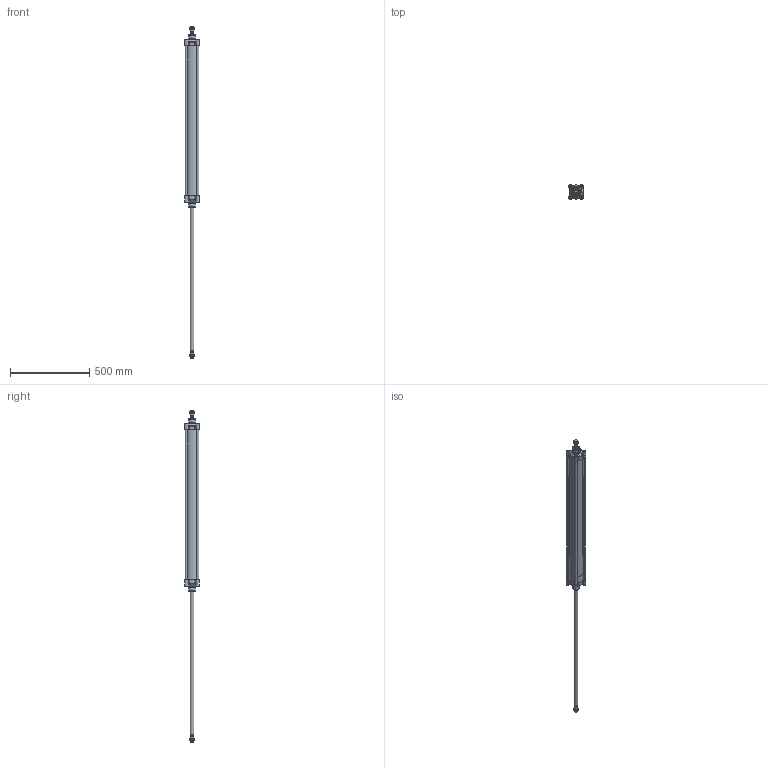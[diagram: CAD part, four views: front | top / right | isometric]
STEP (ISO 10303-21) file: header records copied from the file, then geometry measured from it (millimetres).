
FILE_DESCRIPTION(/* description */ ('Unknown'),/* implementation_level */ '2;1');
FILE_NAME(/* name */ 'HBF 80_900',/* time_stamp */ '2024-08-07T12:43:58+02:00',/* author */ ('Unknown'),/* organization */ ('Unknown'),/* preprocessor_version */ 'ST-DEVELOPER v16.7',/* originating_system */ 'Solid Edge',/* authorisation */ 'Unknown');
FILE_SCHEMA (('AUTOMOTIVE_DESIGN {1 0 10303 214 3 1 1}'));
Length unit declared in the file: millimetre
Products named in the file (6): HBF 80_900; Kit; Profilrohr 80_900; Kolbenstange_1_80_900; Mutter; Kolbenstange_2_80_900
Assembly tree (7 placements, depth 2):
  HBF 80_900
    Kit  x2
    Profilrohr 80_900
    Kolbenstange_1_80_900
    Mutter  x2
    Kolbenstange_2_80_900
Bounding box: 93 x 93 x 2100 mm (x, y, z)
Volume: 2923296.4 mm3; surface area: 1138256.2 mm2
Topology: 7 solids, 21 shells, 1375 faces, 3351 edges, 2066 vertices
Faces by surface type: cylinder 507, plane 398, cone 174, torus 114, sphere 106, bspline 76
Full cylindrical faces by diameter (mm): 8.376 x16, 10 x8, 10.3 x8, 12 x2, 13 x2, 14.94 x2, 14.95 x2, 16 x8, 16.3 x8, 17.5 x2, 18.376 x2, 20 x2, 24.5 x2, 25 x4, 25.8 x2, 25.962 x2, 30 x2, 31.5 x2, 35 x4, 43.5 x2, 45 x2, 80 x3
Entity records: 29567 total; most frequent: CARTESIAN_POINT 7568, ORIENTED_EDGE 3700, DIRECTION 3465, EDGE_CURVE 1850, AXIS2_PLACEMENT_3D 1418, VERTEX_POINT 1190, FACE_BOUND 890, EDGE_LOOP 886
